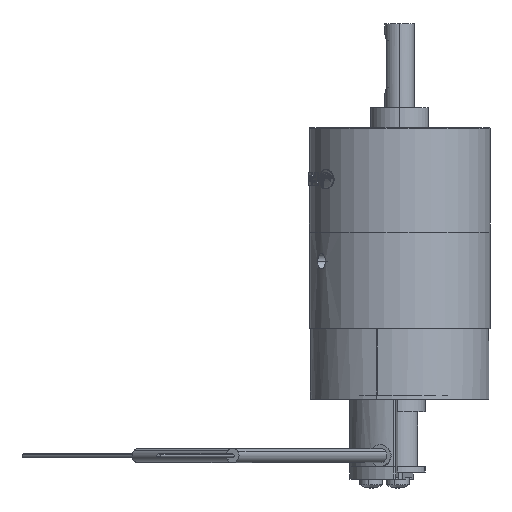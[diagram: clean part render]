
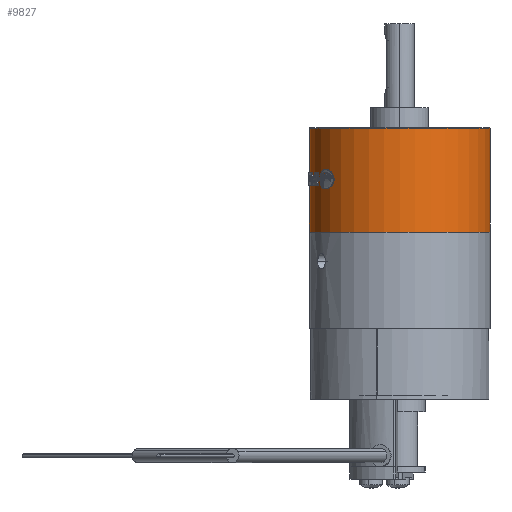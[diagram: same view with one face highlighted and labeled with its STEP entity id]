
A CAD part, left-side view. The second image highlights one B-rep face of the part: STEP entity #9827.
In plain terms, the highlighted cylindrical face has radius 24.75 mm (diameter 49.5 mm), a partial arc.
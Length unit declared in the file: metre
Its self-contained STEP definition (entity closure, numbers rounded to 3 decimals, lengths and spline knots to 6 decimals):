
#988 = ORIENTED_EDGE ( 'NONE', *, *, #14122, .F. ) ;
#1201 = CIRCLE ( 'NONE', #12516, 0.02475 ) ;
#1317 = ORIENTED_EDGE ( 'NONE', *, *, #14197, .T. ) ;
#1654 = LINE ( 'NONE', #5423, #9474 ) ;
#2190 = CARTESIAN_POINT ( 'NONE',  ( 0., -0.02475, -0.0001 ) ) ;
#3440 = FACE_OUTER_BOUND ( 'NONE', #10382, .T. ) ;
#4229 = CARTESIAN_POINT ( 'NONE',  ( 0., 0., -0.0285 ) ) ;
#4906 = AXIS2_PLACEMENT_3D ( 'NONE', #9349, #9251, #9373 ) ;
#5216 = ORIENTED_EDGE ( 'NONE', *, *, #14250, .T. ) ;
#5423 = CARTESIAN_POINT ( 'NONE',  ( 0., -0.02475, -0.0285 ) ) ;
#5780 = DIRECTION ( 'NONE',  ( 0., -1., 0. ) ) ;
#5872 = AXIS2_PLACEMENT_3D ( 'NONE', #18193, #9068, #19653 ) ;
#6682 = LINE ( 'NONE', #6900, #18498 ) ;
#6722 = VERTEX_POINT ( 'NONE', #16441 ) ;
#6900 = CARTESIAN_POINT ( 'NONE',  ( 0., 0.02475, -0.0285 ) ) ;
#7454 = ORIENTED_EDGE ( 'NONE', *, *, #14256, .T. ) ;
#8961 = CIRCLE ( 'NONE', #10421, 0.02475 ) ;
#9024 = DIRECTION ( 'NONE',  ( 0., 0., -1. ) ) ;
#9068 = DIRECTION ( 'NONE',  ( 0., 0., -1. ) ) ;
#9251 = DIRECTION ( 'NONE',  ( 0., 0., 1. ) ) ;
#9349 = CARTESIAN_POINT ( 'NONE',  ( 0., 0., -0.0285 ) ) ;
#9373 = DIRECTION ( 'NONE',  ( 0., -1., 0. ) ) ;
#9474 = VECTOR ( 'NONE', #14948, 1. ) ;
#9827 = ADVANCED_FACE ( 'NONE', ( #3440 ), #15494, .T. ) ;
#10382 = EDGE_LOOP ( 'NONE', ( #988, #5216, #1317, #7454, #17016 ) ) ;
#10421 = AXIS2_PLACEMENT_3D ( 'NONE', #18164, #9024, #19618 ) ;
#11326 = VERTEX_POINT ( 'NONE', #16205 ) ;
#12516 = AXIS2_PLACEMENT_3D ( 'NONE', #4229, #15271, #5780 ) ;
#12621 = CARTESIAN_POINT ( 'NONE',  ( -0.02475, 0., -0.0001 ) ) ;
#13097 = VERTEX_POINT ( 'NONE', #12621 ) ;
#13296 = EDGE_CURVE ( 'NONE', #13097, #11326, #18323, .T. ) ;
#13669 = VERTEX_POINT ( 'NONE', #2190 ) ;
#14122 = EDGE_CURVE ( 'NONE', #17108, #11326, #6682, .T. ) ;
#14197 = EDGE_CURVE ( 'NONE', #6722, #13669, #1654, .T. ) ;
#14250 = EDGE_CURVE ( 'NONE', #17108, #6722, #1201, .T. ) ;
#14256 = EDGE_CURVE ( 'NONE', #13669, #13097, #8961, .T. ) ;
#14948 = DIRECTION ( 'NONE',  ( 0., 0., 1. ) ) ;
#15271 = DIRECTION ( 'NONE',  ( 0., 0., 1. ) ) ;
#15494 = CYLINDRICAL_SURFACE ( 'NONE', #4906, 0.02475 ) ;
#16205 = CARTESIAN_POINT ( 'NONE',  ( 0., 0.02475, -0.0001 ) ) ;
#16441 = CARTESIAN_POINT ( 'NONE',  ( 0., -0.02475, -0.0285 ) ) ;
#17016 = ORIENTED_EDGE ( 'NONE', *, *, #13296, .T. ) ;
#17108 = VERTEX_POINT ( 'NONE', #19342 ) ;
#17725 = DIRECTION ( 'NONE',  ( 0., 0., 1. ) ) ;
#18164 = CARTESIAN_POINT ( 'NONE',  ( 0., 0., -0.0001 ) ) ;
#18193 = CARTESIAN_POINT ( 'NONE',  ( 0., 0., -0.0001 ) ) ;
#18323 = CIRCLE ( 'NONE', #5872, 0.02475 ) ;
#18498 = VECTOR ( 'NONE', #17725, 1. ) ;
#19342 = CARTESIAN_POINT ( 'NONE',  ( 0., 0.02475, -0.0285 ) ) ;
#19618 = DIRECTION ( 'NONE',  ( -1., 0., 0. ) ) ;
#19653 = DIRECTION ( 'NONE',  ( -1., 0., 0. ) ) ;
